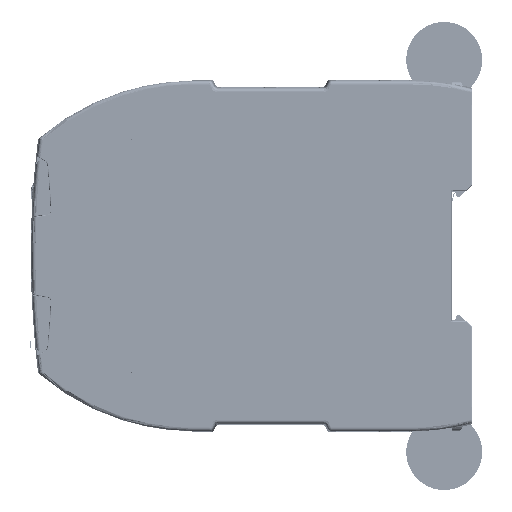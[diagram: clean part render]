
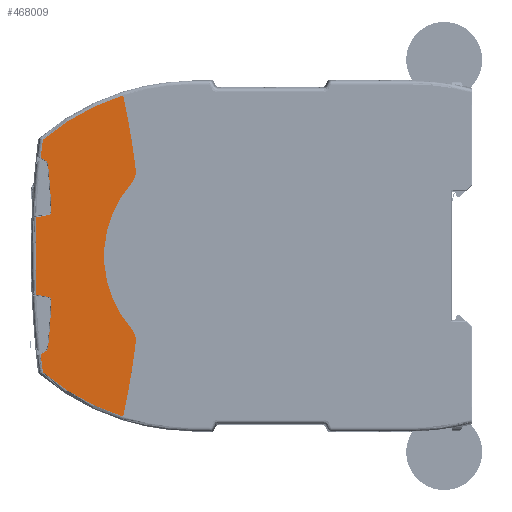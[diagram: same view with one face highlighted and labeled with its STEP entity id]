
A CAD part, left-side view. The second image highlights one B-rep face of the part: STEP entity #468009.
In plain terms, the highlighted planar face has unit normal (-1, 0, 0).
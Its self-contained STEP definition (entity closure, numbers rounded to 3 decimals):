
#89927=CARTESIAN_POINT('',(0.,94.842,43.697));
#90058=CARTESIAN_POINT('',(0.,94.842,-43.697));
#92102=DIRECTION('',(0.,0.866,-0.5));
#92103=VECTOR('',#92102,1.348);
#92104=CARTESIAN_POINT('',(0.,116.068,-26.058));
#92105=LINE('',#92104,#92103);
#92109=CARTESIAN_POINT('',(0.,116.918,-24.585));
#92110=DIRECTION('',(1.,0.,0.));
#92111=DIRECTION('',(0.,-0.995,-0.098));
#92112=AXIS2_PLACEMENT_3D('',#92109,#92110,#92111);
#92117=CARTESIAN_POINT('',(0.,366.51,0.));
#92118=DIRECTION('',(1.,0.,0.));
#92119=DIRECTION('',(0.,-0.999,-0.049));
#92120=AXIS2_PLACEMENT_3D('',#92117,#92118,#92119);
#92125=CARTESIAN_POINT('',(0.,115.51,-12.27));
#92126=DIRECTION('',(1.,0.,0.));
#92127=DIRECTION('',(0.,-0.174,0.985));
#92128=AXIS2_PLACEMENT_3D('',#92125,#92126,#92127);
#92133=DIRECTION('',(0.,-0.985,-0.174));
#92134=VECTOR('',#92133,3.2);
#92135=CARTESIAN_POINT('',(0.,118.453,
-10.533));
#92136=LINE('',#92135,#92134);
#92140=CARTESIAN_POINT('',(0.,-129.99,0.));
#92141=DIRECTION('',(-1.,0.,0.));
#92142=DIRECTION('',(0.,0.999,0.042));
#92143=AXIS2_PLACEMENT_3D('',#92140,#92141,#92142);
#92148=DIRECTION('',(0.,0.985,-0.174));
#92149=VECTOR('',#92148,3.2);
#92150=CARTESIAN_POINT('',(0.,115.301,11.088));
#92151=LINE('',#92150,#92149);
#92155=CARTESIAN_POINT('',(0.,115.51,12.27));
#92156=DIRECTION('',(1.,0.,0.));
#92157=DIRECTION('',(0.,-0.999,0.049));
#92158=AXIS2_PLACEMENT_3D('',#92155,#92156,#92157);
#92163=CARTESIAN_POINT('',(0.,366.51,0.));
#92164=DIRECTION('',(1.,0.,0.));
#92165=DIRECTION('',(0.,-0.995,0.098));
#92166=AXIS2_PLACEMENT_3D('',#92163,#92164,#92165);
#92171=CARTESIAN_POINT('',(0.,116.918,24.585));
#92172=DIRECTION('',(1.,0.,0.));
#92173=DIRECTION('',(0.,-0.5,0.866));
#92174=AXIS2_PLACEMENT_3D('',#92171,#92172,#92173);
#92179=DIRECTION('',(0.,-0.866,-0.5));
#92180=VECTOR('',#92179,1.348);
#92181=CARTESIAN_POINT('',(0.,117.235,
26.731));
#92182=LINE('',#92181,#92180);
#92186=CARTESIAN_POINT('',(0.,-129.99,0.));
#92187=DIRECTION('',(-1.,0.,0.));
#92188=DIRECTION('',(0.,0.992,0.127));
#92189=AXIS2_PLACEMENT_3D('',#92186,#92187,#92188);
#92194=CARTESIAN_POINT('',(0.,76.01,-15.939));
#92195=DIRECTION('',(-1.,0.,0.));
#92196=DIRECTION('',(0.,0.301,0.954));
#92197=AXIS2_PLACEMENT_3D('',#92194,#92195,#92196);
#92202=CARTESIAN_POINT('',(0.,290.01,0.));
#92203=DIRECTION('',(1.,0.,0.));
#92204=DIRECTION('',(0.,-0.976,0.218));
#92205=AXIS2_PLACEMENT_3D('',#92202,#92203,#92204);
#92210=CARTESIAN_POINT('',(0.,96.374,23.021));
#92211=DIRECTION('',(-1.,0.,0.));
#92212=DIRECTION('',(0.,-0.753,-0.658));
#92213=AXIS2_PLACEMENT_3D('',#92210,#92211,#92212);
#92218=CARTESIAN_POINT('',(0.,70.01,0.));
#92219=DIRECTION('',(1.,0.,0.));
#92220=DIRECTION('',(0.,0.753,-0.658));
#92221=AXIS2_PLACEMENT_3D('',#92218,#92219,#92220);
#92226=CARTESIAN_POINT('',(0.,96.374,-23.021));
#92227=DIRECTION('',(-1.,0.,0.));
#92228=DIRECTION('',(0.,-0.993,-0.118));
#92229=AXIS2_PLACEMENT_3D('',#92226,#92227,#92228);
#92234=CARTESIAN_POINT('',(0.,290.01,0.));
#92235=DIRECTION('',(1.,0.,0.));
#92236=DIRECTION('',(0.,-0.993,-0.118));
#92237=AXIS2_PLACEMENT_3D('',#92234,#92235,#92236);
#92242=CARTESIAN_POINT('',(0.,76.01,15.939));
#92243=DIRECTION('',(-1.,0.,0.));
#92244=DIRECTION('',(0.,0.65,-0.76));
#92245=AXIS2_PLACEMENT_3D('',#92242,#92243,#92244);
#92250=CARTESIAN_POINT('',(0.,-129.99,0.));
#92251=DIRECTION('',(-1.,0.,0.));
#92252=DIRECTION('',(0.,0.994,-0.107));
#92253=AXIS2_PLACEMENT_3D('',#92250,#92251,#92252);
#92274=CARTESIAN_POINT('',(0.,117.235,
-26.731));
#102372=CARTESIAN_POINT('',(0.,118.453,
10.533));
#339709=VERTEX_POINT('',#89927);
#339710=CARTESIAN_POINT('',(0.,116.662,31.585));
#339711=VERTEX_POINT('',#339710);
#339714=VERTEX_POINT('',#90058);
#339718=CARTESIAN_POINT('',(0.,116.662,-31.585));
#339719=VERTEX_POINT('',#339718);
#339922=CARTESIAN_POINT('',(0.,92.607,19.732));
#339923=CARTESIAN_POINT('',(0.,91.409,23.611));
#339924=VERTEX_POINT('',#339922);
#339925=VERTEX_POINT('',#339923);
#339938=CARTESIAN_POINT('',(0.,91.409,-23.611));
#339939=CARTESIAN_POINT('',(0.,92.607,-19.732));
#339940=VERTEX_POINT('',#339938);
#339941=VERTEX_POINT('',#339939);
#340035=VERTEX_POINT('',#92274);
#340037=CARTESIAN_POINT('',(0.,116.068,-26.058));
#340038=VERTEX_POINT('',#340037);
#340041=CARTESIAN_POINT('',(0.,115.226,-24.752));
#340042=VERTEX_POINT('',#340041);
#340045=CARTESIAN_POINT('',(0.,114.311,-12.329));
#340046=VERTEX_POINT('',#340045);
#340049=CARTESIAN_POINT('',(0.,115.301,-11.088));
#340050=VERTEX_POINT('',#340049);
#340053=CARTESIAN_POINT('',(0.,118.453,
-10.533));
#340054=VERTEX_POINT('',#340053);
#340057=VERTEX_POINT('',#102372);
#340059=CARTESIAN_POINT('',(0.,115.301,11.088));
#340060=VERTEX_POINT('',#340059);
#340063=CARTESIAN_POINT('',(0.,114.311,12.329));
#340064=VERTEX_POINT('',#340063);
#340067=CARTESIAN_POINT('',(0.,115.226,24.752));
#340068=VERTEX_POINT('',#340067);
#340071=CARTESIAN_POINT('',(0.,116.068,26.058));
#340072=VERTEX_POINT('',#340071);
#340075=CARTESIAN_POINT('',(0.,117.235,
26.731));
#340076=VERTEX_POINT('',#340075);
#467965=CARTESIAN_POINT('',(0.,0.01,0.));
#467966=DIRECTION('',(-1.,0.,0.));
#467967=DIRECTION('',(0.,0.,1.));
#467968=AXIS2_PLACEMENT_3D('',#467965,#467966,#467967);
#467969=PLANE('',#467968);
#467971=ORIENTED_EDGE('',*,*,#467970,.F.);
#467973=ORIENTED_EDGE('',*,*,#467972,.F.);
#467975=ORIENTED_EDGE('',*,*,#467974,.F.);
#467977=ORIENTED_EDGE('',*,*,#467976,.F.);
#467979=ORIENTED_EDGE('',*,*,#467978,.F.);
#467981=ORIENTED_EDGE('',*,*,#467980,.F.);
#467983=ORIENTED_EDGE('',*,*,#467982,.F.);
#467985=ORIENTED_EDGE('',*,*,#467984,.F.);
#467987=ORIENTED_EDGE('',*,*,#467986,.F.);
#467989=ORIENTED_EDGE('',*,*,#467988,.F.);
#467991=ORIENTED_EDGE('',*,*,#467990,.F.);
#467993=ORIENTED_EDGE('',*,*,#467992,.F.);
#467994=ORIENTED_EDGE('',*,*,#467948,.F.);
#467995=ORIENTED_EDGE('',*,*,#466045,.T.);
#467997=ORIENTED_EDGE('',*,*,#467996,.F.);
#467999=ORIENTED_EDGE('',*,*,#467998,.F.);
#468001=ORIENTED_EDGE('',*,*,#468000,.F.);
#468002=ORIENTED_EDGE('',*,*,#466115,.T.);
#468004=ORIENTED_EDGE('',*,*,#468003,.F.);
#468006=ORIENTED_EDGE('',*,*,#468005,.F.);
#468007=EDGE_LOOP('',(#467971,#467973,#467975,#467977,#467979,#467981,#467983,
#467985,#467987,#467989,#467991,#467993,#467994,#467995,#467997,#467999,#468001,
#468002,#468004,#468006));
#468008=FACE_OUTER_BOUND('',#468007,.F.);
#92113=CIRCLE('',#92112,1.7);
#92121=CIRCLE('',#92120,252.5);
#92129=CIRCLE('',#92128,1.2);
#92144=CIRCLE('',#92143,248.666);
#92159=CIRCLE('',#92158,1.2);
#92167=CIRCLE('',#92166,252.5);
#92175=CIRCLE('',#92174,1.7);
#92190=CIRCLE('',#92189,248.666);
#92198=CIRCLE('',#92197,62.539);
#92206=CIRCLE('',#92205,200.);
#92214=CIRCLE('',#92213,5.);
#92222=CIRCLE('',#92221,30.);
#92230=CIRCLE('',#92229,5.);
#92238=CIRCLE('',#92237,200.);
#92246=CIRCLE('',#92245,62.539);
#92254=CIRCLE('',#92253,248.666);
#466045=EDGE_CURVE('',#339709,#339925,#92206,.T.);
#466115=EDGE_CURVE('',#339940,#339714,#92238,.T.);
#467948=EDGE_CURVE('',#339709,#339711,#92198,.T.);
#467970=EDGE_CURVE('',#340038,#340035,#92105,.T.);
#467972=EDGE_CURVE('',#340042,#340038,#92113,.T.);
#467974=EDGE_CURVE('',#340046,#340042,#92121,.T.);
#467976=EDGE_CURVE('',#340050,#340046,#92129,.T.);
#467978=EDGE_CURVE('',#340054,#340050,#92136,.T.);
#467980=EDGE_CURVE('',#340057,#340054,#92144,.T.);
#467982=EDGE_CURVE('',#340060,#340057,#92151,.T.);
#467984=EDGE_CURVE('',#340064,#340060,#92159,.T.);
#467986=EDGE_CURVE('',#340068,#340064,#92167,.T.);
#467988=EDGE_CURVE('',#340072,#340068,#92175,.T.);
#467990=EDGE_CURVE('',#340076,#340072,#92182,.T.);
#467992=EDGE_CURVE('',#339711,#340076,#92190,.T.);
#467996=EDGE_CURVE('',#339924,#339925,#92214,.T.);
#467998=EDGE_CURVE('',#339941,#339924,#92222,.T.);
#468000=EDGE_CURVE('',#339940,#339941,#92230,.T.);
#468003=EDGE_CURVE('',#339719,#339714,#92246,.T.);
#468005=EDGE_CURVE('',#340035,#339719,#92254,.T.);
#468009=ADVANCED_FACE('',(#468008),#467969,.T.);
